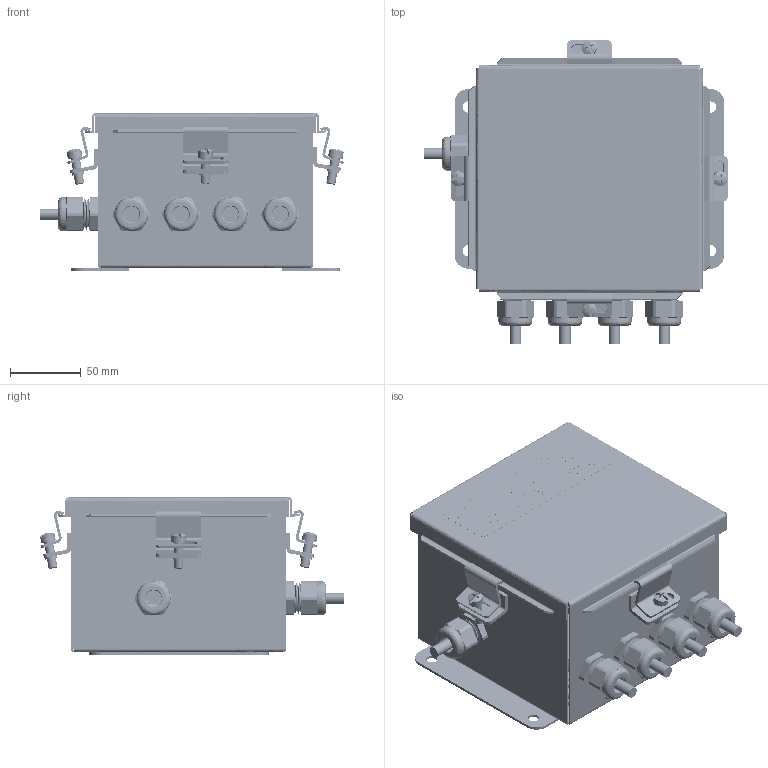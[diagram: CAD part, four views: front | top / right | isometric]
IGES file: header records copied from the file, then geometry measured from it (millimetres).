
Start section: SolidWorks IGES file using analytic representation for surfaces
Global section: file name: C:\0_Work\SolidWorks\HI 6020 Series\HI6020IT-PS1.IGS; native system: SolidWorks 2020; preprocessor: SolidWorks 2020; author: vach01; date: 210610.130223; units: inch
Bounding box: 214.68 x 214.89 x 111.59 mm (x, y, z)
Surface area: 444452.5 mm2 (no closed solid volume)
Topology: 0 solids, 0 shells, 14861 faces, 137776 edges, 137648 vertices
Faces by surface type: bspline 11801, revolution 3060
